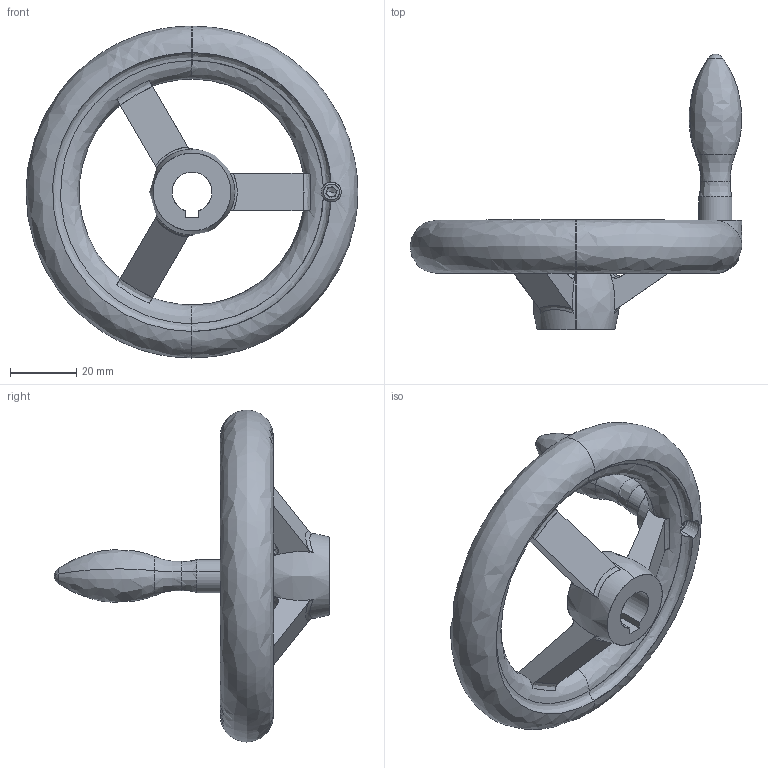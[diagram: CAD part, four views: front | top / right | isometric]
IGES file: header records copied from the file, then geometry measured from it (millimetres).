
Start section: SolidWorks IGES file using analytic representation for surfaces
Global section: file name: C:\Users\IanO\Desktop\Temp File\Process pending\77120_v2\77120_v2_20171108_IGES\77120.W0506.igs; native system: SolidWorks 2017; preprocessor: SolidWorks 2017; author: IanO; date: 171108.084836; units: millimetre
Bounding box: 100 x 83 x 100 mm (x, y, z)
Surface area: 20961.8 mm2 (no closed solid volume)
Topology: 0 solids, 0 shells, 131 faces, 1463 edges, 1456 vertices
Faces by surface type: bspline 74, revolution 57
